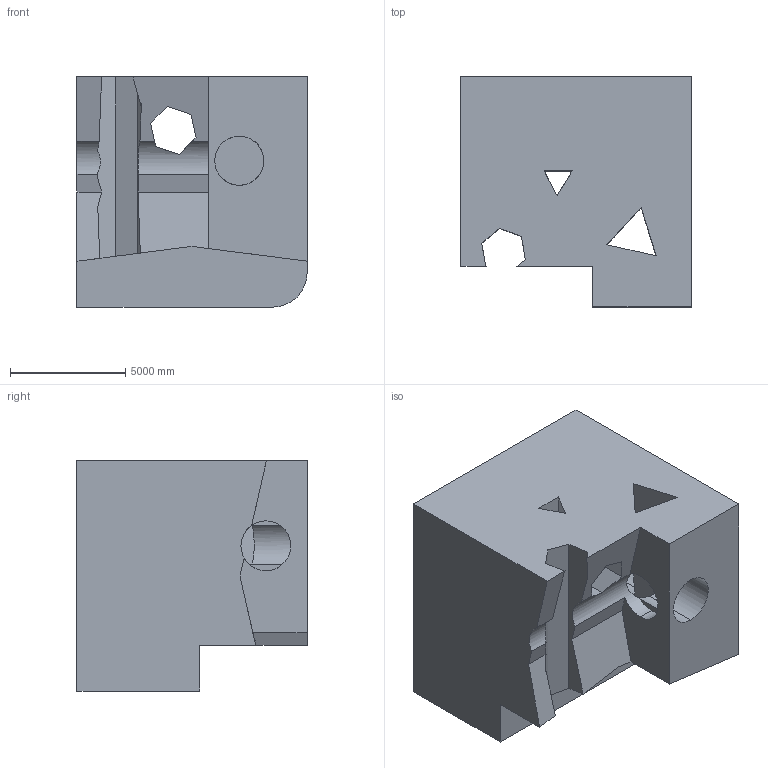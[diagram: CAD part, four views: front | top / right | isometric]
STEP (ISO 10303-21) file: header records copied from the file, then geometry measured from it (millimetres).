
FILE_DESCRIPTION (( 'STEP AP203' ), '1' );
FILE_NAME ('908.STEP', '2022-07-29T14:12:18', ( 'user' ), ( '' ), 'SwSTEP 2.0', 'SolidWorks 2021', '' );
FILE_SCHEMA (( 'CONFIG_CONTROL_DESIGN' ));
Length unit declared in the file: centimetre
Products named in the file (1): 908
Bounding box: 10000 x 10000 x 10000 mm (x, y, z)
Volume: 697772047004.5 mm3; surface area: 718076330.8 mm2
Topology: 1 solids, 1 shells, 53 faces, 165 edges, 110 vertices
Faces by surface type: plane 44, cylinder 9
Entity records: 2102 total; most frequent: CARTESIAN_POINT 562, ORIENTED_EDGE 330, DIRECTION 274, EDGE_CURVE 165, LINE 130, VECTOR 130, VERTEX_POINT 110, AXIS2_PLACEMENT_3D 72
